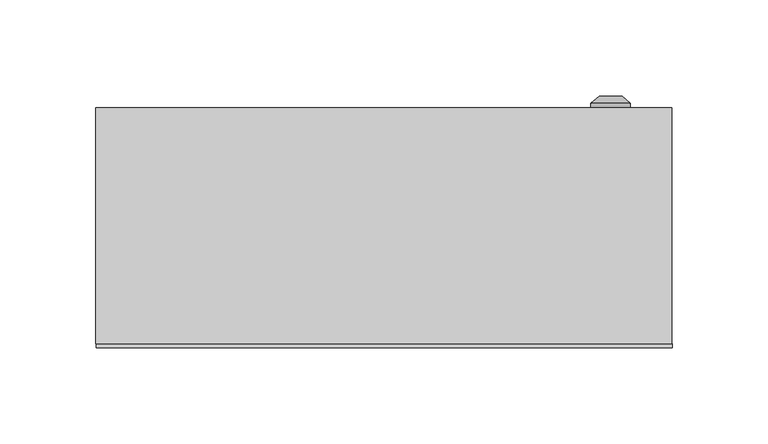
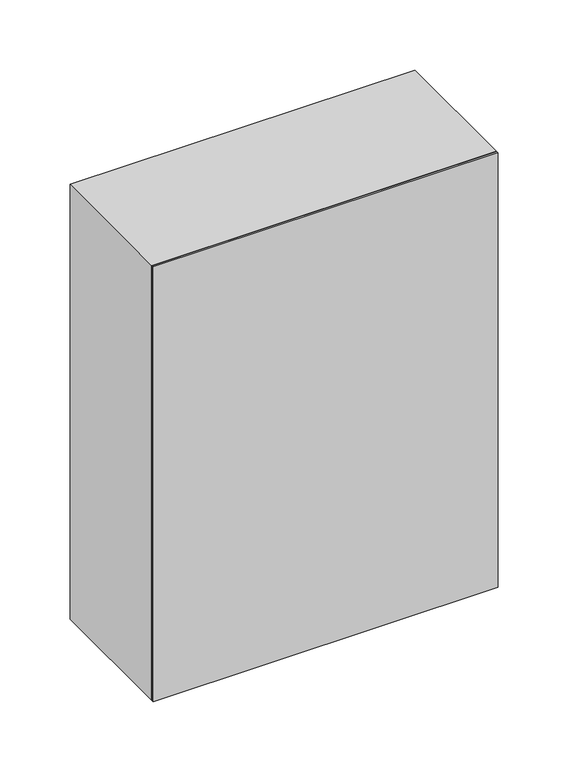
"""IFC4 building model written with IfcOpenShell, lengths in millimetres: proxy geometry, ЩУРН-3_12Э : ЩУРН-3/12Э."""

from ifc_helpers import new_model, si_unit, point, frame, frame_2d, origin, origin_with_axes, place, context, project, spatial, polyline, circle_curve, trimmed, segment, composite_curve, outline, extrude, source, transform, mapped, element, save
from ifc_brep_helpers import plane_surface, cylinder_surface, revolved_surface, advanced_brep


def electrical_equipment_6cbb61f2(model_context):
    return source(origin(), model_context, "Body", "SolidModel", [
        advanced_brep(
        [(107.669873, 125.0, 200.0), (128.330127, 125.0, 200.0), (118.0, 125.0, 200.0), (116.1080471, 131.0, 200.0), (119.8919529, 131.0, 200.0), (124.0, 131.0, 200.0), (112.0, 131.0, 200.0), (116.1080471, 129.9822294, 200.0), (119.8919529, 129.9822294, 200.0), (118.0, 129.9822294, 200.0), (107.669873, 127.366592, 200.0), (128.330127, 127.366592, 200.0)],
        [
            (0, 1, circle_curve(frame((118.0, 125.0, 200.0), z_axis=(0.0, -1.0, 0.0), x_axis=(1.0, 0.0, 0.0)), 10.330127)),
            (1, 2),
            (2, 0),
            (1, 0, circle_curve(frame((118.0, 125.0, 200.0), z_axis=(0.0, -1.0, 0.0), x_axis=(1.0, 0.0, 0.0)), 10.330127)),
            (3, 4, circle_curve(frame((118.0, 131.0, 200.0), z_axis=(0.0, -1.0, 0.0), x_axis=(1.0, 0.0, 0.0)), 1.8919529)),
            (4, 5),
            (5, 6, circle_curve(frame((118.0, 131.0, 200.0), z_axis=(0.0, 1.0, 0.0), x_axis=(1.0, 0.0, 0.0)), 6.0)),
            (6, 3),
            (4, 3, circle_curve(frame((118.0, 131.0, 200.0), z_axis=(0.0, -1.0, 0.0), x_axis=(1.0, 0.0, 0.0)), 1.8919529)),
            (6, 5, circle_curve(frame((118.0, 131.0, 200.0), z_axis=(0.0, 1.0, 0.0), x_axis=(1.0, 0.0, 0.0)), 6.0)),
            (7, 8, circle_curve(frame((118.0, 129.9822294, 200.0), z_axis=(0.0, -1.0, 0.0), x_axis=(1.0, 0.0, 0.0)), 1.8919529)),
            (8, 4),
            (3, 7),
            (8, 7, circle_curve(frame((118.0, 129.9822294, 200.0), z_axis=(0.0, -1.0, 0.0), x_axis=(1.0, 0.0, 0.0)), 1.8919529)),
            (9, 8),
            (7, 9),
            (10, 11, circle_curve(frame((118.0, 127.366592, 200.0), z_axis=(0.0, -1.0, 0.0), x_axis=(1.0, 0.0, 0.0)), 10.330127)),
            (11, 1),
            (0, 10),
            (11, 10, circle_curve(frame((118.0, 127.366592, 200.0), z_axis=(0.0, -1.0, 0.0), x_axis=(1.0, 0.0, 0.0)), 10.330127)),
            (5, 11),
            (10, 6),
        ],
        [
            plane_surface(frame((118.0, 125.0, 200.0), z_axis=(0.0, -1.0, 0.0), x_axis=(1.0, 0.0, 0.0))),
            plane_surface(frame((118.0, 131.0, 200.0), z_axis=(0.0, 1.0, 0.0), x_axis=(1.0, 0.0, 0.0))),
            revolved_surface(polyline([(119.8919529, 131.0, 200.0), (119.8919529, 129.9822294, 200.0)]), (118.0, 138.1348851, 200.0), (0.0, 1.0, 0.0)),
            plane_surface(frame((118.0, 129.9822294, 200.0), z_axis=(0.0, 1.0, 0.0), x_axis=(1.0, 0.0, 0.0))),
            cylinder_surface(frame((118.0, 138.1348851, 200.0), z_axis=(0.0, 1.0, 0.0), x_axis=(1.0, 0.0, 0.0)), 10.330127),
            revolved_surface(polyline([(128.330127, 127.366592, 200.0), (124.0, 131.0, 200.0)]), (118.0, 138.1348851, 200.0), (0.0, 1.0, 0.0)),
        ],
        [
            (0, [[1, 2, 3]]),
            (0, [[4, -3, -2]]),
            (1, [[5, 6, 7, 8]]),
            (1, [[9, -8, 10, -6]]),
            (2, [[11, 12, -5, 13]]),
            (2, [[14, -13, -9, -12]]),
            (3, [[15, -11, 16]]),
            (3, [[-16, -14, -15]]),
            (4, [[17, 18, -1, 19]]),
            (4, [[20, -19, -4, -18]]),
            (5, [[-7, 21, -17, 22]]),
            (5, [[-10, -22, -20, -21]]),
        ],
    ),
        extrude(outline(polyline([(384.0, -134.0), (16.0, -134.0), (16.0, 134.0), (384.0, 134.0), (384.0, -134.0)]), holes=[composite_curve([segment(polyline([(317.5, -40.0), (317.5, -10.0), (317.5, 20.0)]), True, "CONTINUOUS"), segment(trimmed(circle_curve(frame_2d((307.5, 20.0)), 10.0), [point((317.5, 20.0))], [point((307.5, 30.0))], True, "CARTESIAN"), True, "CONTINUOUS"), segment(polyline([(307.5, 30.0), (277.5, 30.0)]), True, "CONTINUOUS"), segment(trimmed(circle_curve(frame_2d((277.5, 20.0)), 10.0), [point((277.5, 30.0))], [point((267.5, 20.0))], True, "CARTESIAN"), True, "CONTINUOUS"), segment(polyline([(267.5, 20.0), (267.5, -40.0)]), True, "CONTINUOUS"), segment(trimmed(circle_curve(frame_2d((277.5, -40.0)), 10.0), [point((267.5, -40.0))], [point((277.5, -50.0))], True, "CARTESIAN"), True, "CONTINUOUS"), segment(polyline([(277.5, -50.0), (307.5, -50.0)]), True, "CONTINUOUS"), segment(trimmed(circle_curve(frame_2d((307.5, -40.0)), 10.0), [point((307.5, -50.0))], [point((317.5, -40.0))], True, "CARTESIAN"), True, "CONTINUOUS")], self_intersect=False)]), frame((0.0, 123.0, 0.0), z_axis=(0.0, 1.0, 0.0), x_axis=(0.0, 0.0, 1.0)), (0.0, 0.0, 1.0), 2.0),
        extrude(outline(polyline([(400.0, -150.0033905), (0.0, -150.0033905), (0.0, 149.9966095), (400.0, 149.9966095), (400.0, -150.0033905)]), holes=[polyline([(385.0, -135.0), (385.0, 135.0), (15.0, 135.0), (15.0, -135.0), (385.0, -135.0)])]), frame((0.0, 2.0, 0.0), z_axis=(0.0, 1.0, 0.0), x_axis=(0.0, 0.0, 1.0)), (0.0, 0.0, 1.0), 123.0),
        extrude(outline(polyline([(150.0, 0.0), (-150.0, 0.0), (-150.0, 2.0), (150.0, 2.0), (150.0, 0.0)])), origin_with_axes(), (0.0, 0.0, 1.0), 400.0),
    ])


if __name__ == "__main__":
    model = new_model("IFC4")
    model_context = context("Model", 3, world=origin())
    ifc_project = project(units=[si_unit("LENGTHUNIT", "METRE", prefix="MILLI")], contexts=[model_context])
    site = spatial("IfcSite", under=ifc_project)
    building = spatial("IfcBuilding", under=site)
    placement = place(None, origin())
    electrical_equipment_shape = electrical_equipment_6cbb61f2(model_context)
    element("IfcBuildingElementProxy", 1, Name="ЩУРН-3_12Э : ЩУРН-3/12Э", ObjectType="ЩУРН-3_12Э : ЩУРН-3/12Э", at=placement, inside=building, context=model_context, shape_type="MappedRepresentation", body=[
        mapped(electrical_equipment_shape, transform((0.0, 0.0, 0.0), x_axis=(1.0, 0.0, 0.0), y_axis=(0.0, 1.0, 0.0), z_axis=(0.0, 0.0, 1.0))),
    ])
    save(model, "model.ifc")
